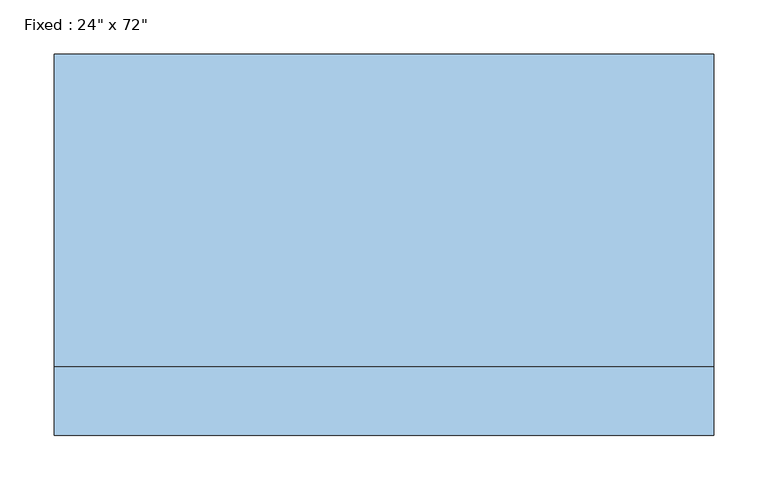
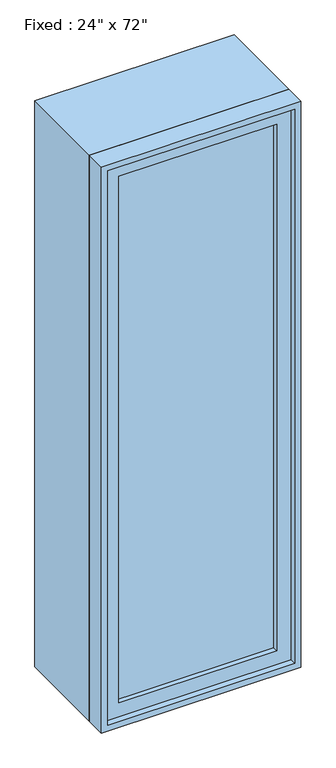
"""IFC4 building model written with IfcOpenShell, lengths in millimetres: window geometry."""

from ifc_helpers import new_model, si_unit, frame, origin, place, context, project, spatial, polyline, outline, extrude, source, transform, mapped, element, save


def window_ff99b6fa(model_context):
    return source(origin(), model_context, "Body", "SweptSolid", [
        extrude(outline(polyline([(203.2, -128.5875), (203.2, -141.2875), (-279.4, -141.2875), (-279.4, -128.5875), (203.2, -128.5875)])), frame((0.0, 0.0, 368.3), z_axis=(0.0, 0.0, 1.0), x_axis=(1.0, 0.0, 0.0)), (0.0, 0.0, 1.0), 1701.8),
        extrude(outline(polyline([(2114.55, -323.85), (323.85, -323.85), (323.85, 247.65), (2114.55, 247.65), (2114.55, -323.85)]), holes=[polyline([(2070.1, -279.4), (2070.1, 203.2), (368.3, 203.2), (368.3, -279.4), (2070.1, -279.4)])]), frame((0.0, -157.1625, 0.0), z_axis=(0.0, 1.0, 0.0), x_axis=(0.0, 0.0, 1.0)), (0.0, 0.0, 1.0), 44.45),
        extrude(outline(polyline([(2133.6, -342.9), (304.8, -342.9), (304.8, 266.7), (2133.6, 266.7), (2133.6, -342.9)]), holes=[polyline([(2101.85, -311.15), (2101.85, 234.95), (336.55, 234.95), (336.55, -311.15), (2101.85, -311.15)])]), frame((0.0, -112.7125, 0.0), z_axis=(0.0, 1.0, 0.0), x_axis=(0.0, 0.0, 1.0)), (0.0, 0.0, 1.0), 288.925),
        extrude(outline(polyline([(2133.6, 266.7), (2133.6, -342.9), (304.8, -342.9), (304.8, 266.7), (2133.6, 266.7)]), holes=[polyline([(2114.55, 247.65), (323.85, 247.65), (323.85, -323.85), (2114.55, -323.85), (2114.55, 247.65)])]), frame((0.0, -176.2125, 0.0), z_axis=(0.0, 1.0, 0.0), x_axis=(0.0, 0.0, 1.0)), (0.0, 0.0, 1.0), 63.5),
    ])


if __name__ == "__main__":
    model = new_model("IFC4")
    model_context = context("Model", 3, world=origin())
    ifc_project = project(units=[si_unit("LENGTHUNIT", "METRE", prefix="MILLI")], contexts=[model_context])
    site = spatial("IfcSite", under=ifc_project)
    building = spatial("IfcBuilding", under=site)
    placement = place(None, origin())
    window_shape = window_ff99b6fa(model_context)
    element("IfcWindow", 1, ObjectType="Fixed : 24\" x 72\"", at=placement, inside=building, context=model_context, shape_type="MappedRepresentation", body=[
        mapped(window_shape, transform((0.0, 0.0, 0.0), x_axis=(1.0, 0.0, 0.0), y_axis=(0.0, 1.0, 0.0), z_axis=(0.0, 0.0, 1.0))),
    ])
    save(model, "model.ifc")
